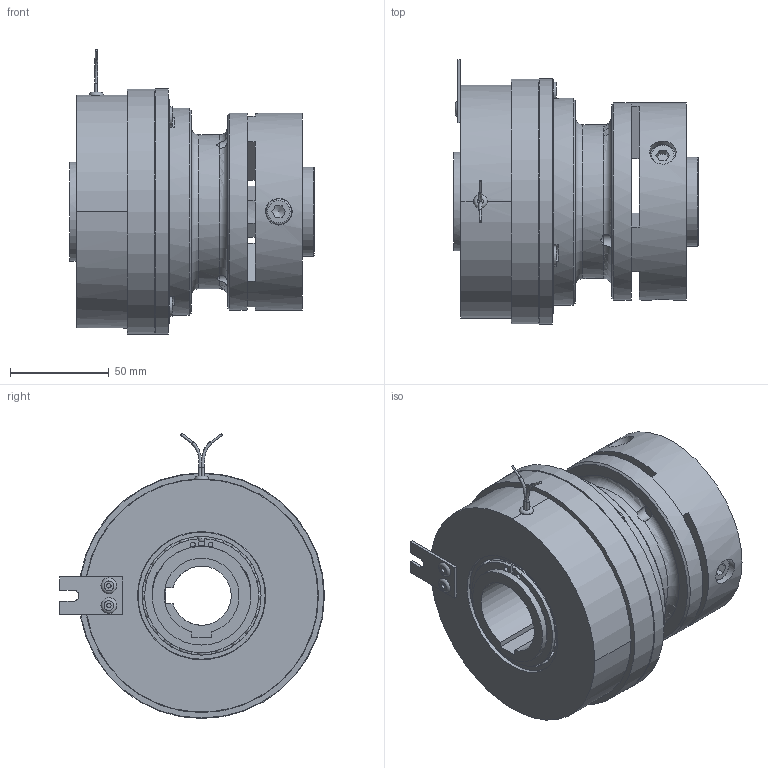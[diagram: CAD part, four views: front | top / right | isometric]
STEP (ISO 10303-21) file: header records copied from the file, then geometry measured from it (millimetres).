
FILE_DESCRIPTION(/* description */ (''),/* implementation_level */ '2;1');
FILE_NAME(/* name */ 'X:\INVENTOR\DISEGNI\08_Freni_Friz_Elettmag_Monodisco\08_26 EMSL_DF\EMSL_DF STEP\08_26_120_51 EMSL120_DF-GE@STEP.stp',/* time_stamp */ '2018-04-24T10:12:13+02:00',/* author */ ('stefano'),/* organization */ (''),/* preprocessor_version */ 'ST-DEVELOPER v17',/* originating_system */ 'Autodesk Inventor 2018',/* authorisation */ '');
FILE_SCHEMA (('AUTOMOTIVE_DESIGN { 1 0 10303 214 3 1 1 }'));
Length unit declared in the file: millimetre
Products named in the file (1): 08_26_120_51 EMSL120_DF-GE_Substitute_1
Bounding box: 124 x 134.25 x 144.47 mm (x, y, z)
Volume: 744608.4 mm3; surface area: 183572.1 mm2
Topology: 3 solids, 3 shells, 533 faces, 1667 edges, 1125 vertices
Faces by surface type: cylinder 209, plane 205, torus 62, cone 35, sphere 20, bspline 2
Full cylindrical faces by diameter (mm): 1.154 x2, 1.5 x1, 2.2 x5, 2.5 x2, 3 x2, 6 x3, 6.1 x3, 6.647 x6, 7.5 x3, 10 x3, 10.5 x3, 13 x6, 13.5 x6, 45 x2, 47 x2, 50 x5, 54.8 x2, 56 x2, 60.2 x2, 64.5 x1, 65 x5, 68 x1, 77 x1, 78 x1, 81 x1, 100 x2, 105 x1, 110.5 x1, 118.5 x1, 124 x1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
Entity records: 21761 total; most frequent: CARTESIAN_POINT 6080, DIRECTION 3324, ORIENTED_EDGE 3240, EDGE_CURVE 1620, AXIS2_PLACEMENT_3D 1433, VERTEX_POINT 1126, CIRCLE 901, EDGE_LOOP 698
